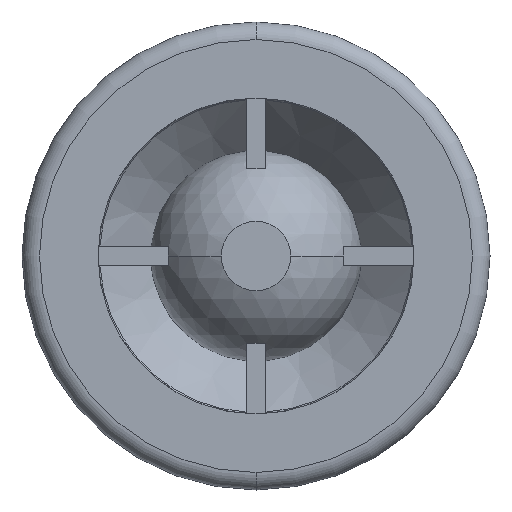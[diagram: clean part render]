
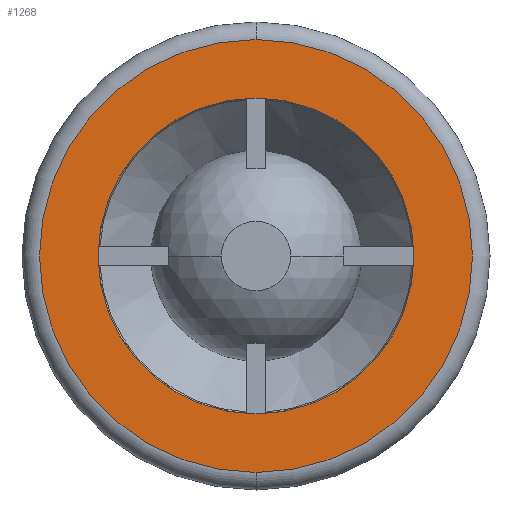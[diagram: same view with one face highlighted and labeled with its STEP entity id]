
A CAD part, front view. The second image highlights one B-rep face of the part: STEP entity #1268.
In plain terms, the highlighted planar face has unit normal (0, -1, 0).
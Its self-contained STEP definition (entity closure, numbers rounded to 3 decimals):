
#20 = VERTEX_POINT ( 'NONE', #1465 ) ;
#24 = EDGE_CURVE ( 'NONE', #20, #30, #1463, .T. ) ;
#30 = VERTEX_POINT ( 'NONE', #1511 ) ;
#258 = EDGE_CURVE ( 'NONE', #30, #20, #1950, .T. ) ;
#1116 = EDGE_CURVE ( 'NONE', #1117, #1118, #3554, .T. ) ;
#1117 = VERTEX_POINT ( 'NONE', #3546 ) ;
#1118 = VERTEX_POINT ( 'NONE', #3545 ) ;
#1268 = ADVANCED_FACE ( 'NONE', ( #3877, #3876 ), #3875, .F. ) ;
#1269 = EDGE_LOOP ( 'NONE', ( #1270, #1326 ) ) ;
#1270 = ORIENTED_EDGE ( 'NONE', *, *, #1271, .T. ) ;
#1271 = EDGE_CURVE ( 'NONE', #1118, #1117, #3869, .T. ) ;
#1272 = EDGE_LOOP ( 'NONE', ( #1327, #1328 ) ) ;
#1326 = ORIENTED_EDGE ( 'NONE', *, *, #1116, .T. ) ;
#1327 = ORIENTED_EDGE ( 'NONE', *, *, #258, .F. ) ;
#1328 = ORIENTED_EDGE ( 'NONE', *, *, #24, .F. ) ;
#1459 = DIRECTION ( 'NONE',  ( 0., 0., -1. ) ) ;
#1460 = DIRECTION ( 'NONE',  ( 0., -1., 0. ) ) ;
#1461 = CARTESIAN_POINT ( 'NONE',  ( 0., 0., 0. ) ) ;
#1462 = AXIS2_PLACEMENT_3D ( 'NONE', #1461, #1460, #1459 ) ;
#1463 = CIRCLE ( 'NONE', #1462, 13.5 ) ;
#1465 = CARTESIAN_POINT ( 'NONE',  ( 0., 0., 13.5 ) ) ;
#1511 = CARTESIAN_POINT ( 'NONE',  ( 0., 0., -13.5 ) ) ;
#1946 = DIRECTION ( 'NONE',  ( 0., 0., -1. ) ) ;
#1947 = DIRECTION ( 'NONE',  ( 0., -1., 0. ) ) ;
#1948 = CARTESIAN_POINT ( 'NONE',  ( 0., 0., 0. ) ) ;
#1949 = AXIS2_PLACEMENT_3D ( 'NONE', #1948, #1947, #1946 ) ;
#1950 = CIRCLE ( 'NONE', #1949, 13.5 ) ;
#3545 = CARTESIAN_POINT ( 'NONE',  ( 0., 0., 18.5 ) ) ;
#3546 = CARTESIAN_POINT ( 'NONE',  ( 0., 0., -18.5 ) ) ;
#3547 = DIRECTION ( 'NONE',  ( 0., 0., 1. ) ) ;
#3548 = DIRECTION ( 'NONE',  ( 0., -1., 0. ) ) ;
#3549 = CARTESIAN_POINT ( 'NONE',  ( 0., 0., 0. ) ) ;
#3550 = AXIS2_PLACEMENT_3D ( 'NONE', #3549, #3548, #3547 ) ;
#3554 = CIRCLE ( 'NONE', #3550, 18.5 ) ;
#3866 = DIRECTION ( 'NONE',  ( 0., 0., 1. ) ) ;
#3867 = DIRECTION ( 'NONE',  ( 0., -1., 0. ) ) ;
#3868 = AXIS2_PLACEMENT_3D ( 'NONE', #3873, #3867, #3866 ) ;
#3869 = CIRCLE ( 'NONE', #3868, 18.5 ) ;
#3870 = DIRECTION ( 'NONE',  ( 0., 0., 1. ) ) ;
#3871 = DIRECTION ( 'NONE',  ( 0., 1., 0. ) ) ;
#3872 = CARTESIAN_POINT ( 'NONE',  ( -13.5, 0., 0. ) ) ;
#3873 = CARTESIAN_POINT ( 'NONE',  ( 0., 0., 0. ) ) ;
#3874 = AXIS2_PLACEMENT_3D ( 'NONE', #3872, #3871, #3870 ) ;
#3875 = PLANE ( 'NONE',  #3874 ) ;
#3876 = FACE_BOUND ( 'NONE', #1272, .T. ) ;
#3877 = FACE_OUTER_BOUND ( 'NONE', #1269, .T. ) ;
